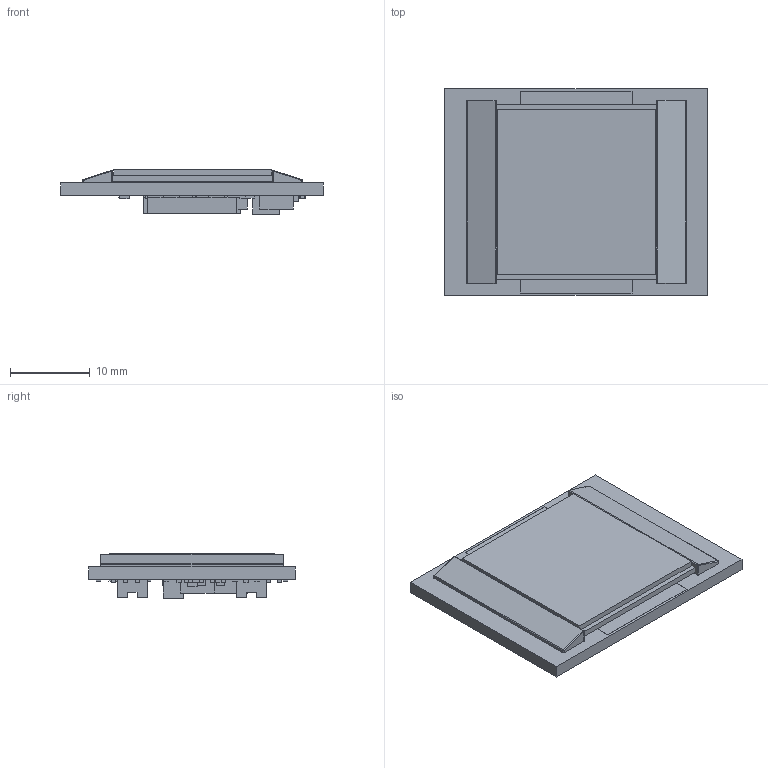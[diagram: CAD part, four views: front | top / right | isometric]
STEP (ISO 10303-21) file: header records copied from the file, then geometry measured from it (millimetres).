
FILE_DESCRIPTION (( 'STEP AP203' ), '1' );
FILE_NAME ('1000180 2K RGB COLOR XL GL MICRODISPLAY.STEP', '2019-05-15T18:39:28', ( 'kgn10' ), ( 'Microsoft' ), 'SwSTEP 2.0', 'SolidWorks 2017', '' );
FILE_SCHEMA (( 'CONFIG_CONTROL_DESIGN' ));
Length unit declared in the file: inch
Products named in the file (12): R0603_RESC1609X55N; UDFN8_UDFN8; 1210_1210; CUSTOM_FDSDO420; MICROSMP_MICROSMP; DIE - 2K STO; SOT23_SOT23213; C0402_CAPC1005X60N; 1000164 REV. A, 2K RGB CARRIER PCB_COMPONENTS ONLY; 0603MIN_0603; 1000180 2K RGB COLOR XL GL MICRODISPLAY; R0402_RESC1005X40N
Assembly tree (54 placements, depth 3):
  1000180 2K RGB COLOR XL GL MICRODISPLAY
    DIE - 2K STO
    1000164 REV. A, 2K RGB CARRIER PCB_COMPONENTS ONLY
      C0402_CAPC1005X60N  x17
      0603MIN_0603  x4
      R0402_RESC1005X40N  x21
      R0603_RESC1609X55N  x4
      UDFN8_UDFN8
      1210_1210
      CUSTOM_FDSDO420  x2
      MICROSMP_MICROSMP
      SOT23_SOT23213
Bounding box: 32.96 x 25.95 x 5.58 mm (x, y, z)
Volume: 2419.2 mm3; surface area: 5448.4 mm2
Topology: 59 solids, 59 shells, 2360 faces, 8124 edges, 5352 vertices
Faces by surface type: plane 2320, cylinder 24, cone 8, sphere 8
Entity records: 82990 total; most frequent: ORIENTED_EDGE 15200, CARTESIAN_POINT 14764, DIRECTION 11976, EDGE_CURVE 7600, VECTOR 7544, LINE 7544, VERTEX_POINT 5004, AXIS2_PLACEMENT_3D 2216
